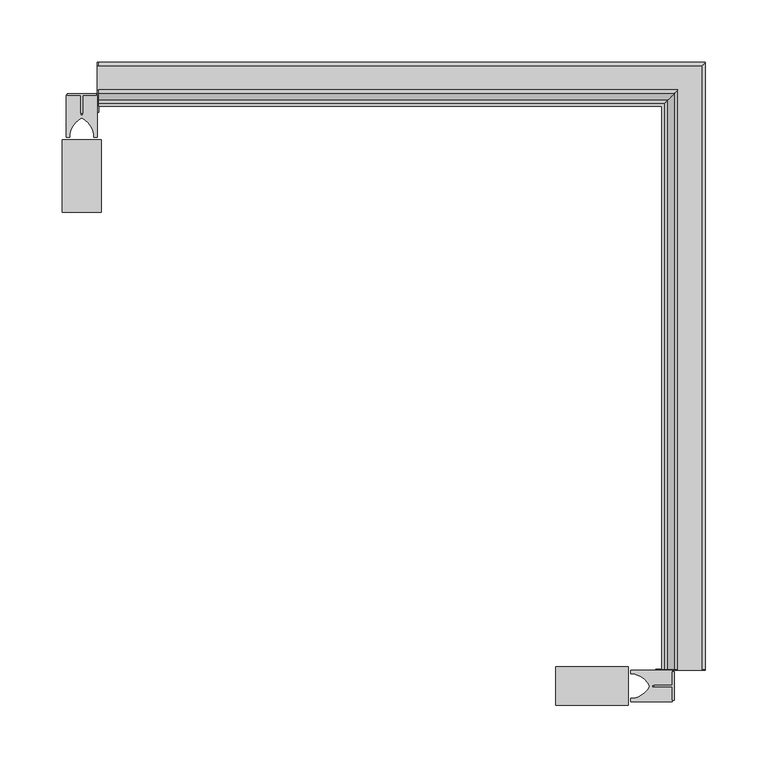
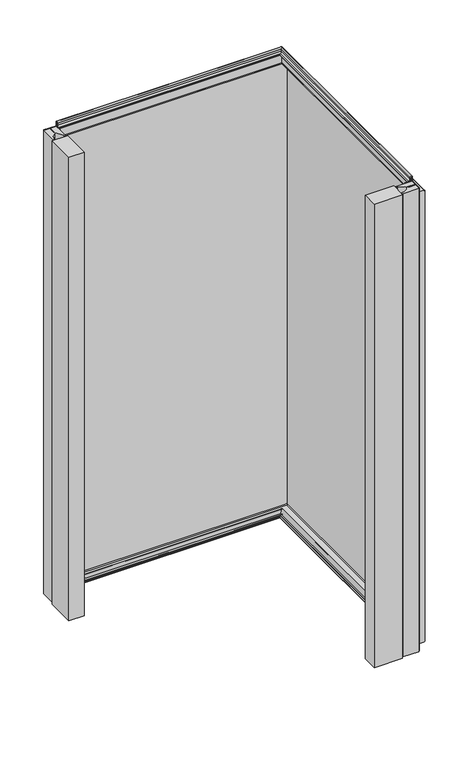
"""IFC4 building model written with IfcOpenShell, lengths in millimetres: plate geometry, Угловой модуль Fronttop : Угловой модуль Fronttop 120/1000."""

from ifc_helpers import new_model, si_unit, point, frame, frame_2d, origin, origin_with_axes, place, context, project, spatial, polyline, circle_curve, ellipse_curve, trimmed, segment, composite_curve, outline, extrude, source, transform, mapped, element, save
from ifc_brep_helpers import plane_surface, cylinder_surface, revolved_surface, advanced_brep


def plate_288d69b8(model_context):
    return source(origin(), model_context, "Body", "SolidModel", [
        extrude(outline(polyline([(225.0, -368.4948846), (225.0, -391.5051154), (223.5, -391.5051154), (223.5, -380.6502496), (209.0759655, -380.6502496), (209.0759655, -379.35), (223.5, -379.35), (223.5, -368.4948846), (225.0, -368.4948846)])), origin_with_axes(), (0.0, 0.0, 1.0), 1000.0),
        extrude(outline(composite_curve([segment(polyline([(223.5, -367.4998455), (223.5, -379.25), (207.5, -379.25), (207.5, -380.75), (223.5, -380.75), (223.5, -392.5001545), (190.0, -392.5001545), (190.0, -389.75), (192.5, -389.75)]), True, "CONTINUOUS"), segment(trimmed(circle_curve(frame_2d((189.3183984, -371.9661979)), 18.0661619), [point((192.5, -389.75))], [point((205.5, -380.0))], True, "CARTESIAN"), True, "CONTINUOUS"), segment(trimmed(circle_curve(frame_2d((189.3183984, -388.0338021)), 18.0661619), [point((205.5, -380.0))], [point((192.5, -370.25))], True, "CARTESIAN"), True, "CONTINUOUS"), segment(polyline([(192.5, -370.25), (190.0, -370.25), (190.0, -367.4998455), (223.5, -367.4998455)]), True, "CONTINUOUS")], self_intersect=False)), origin_with_axes(), (0.0, 0.0, 1.0), 1000.0),
        extrude(outline(polyline([(130.0, -395.5), (130.0, -364.5), (188.0, -364.5), (188.0, -395.5), (130.0, -395.5)])), origin_with_axes(), (0.0, 0.0, 1.0), 1000.0),
        extrude(outline(polyline([(-261.5051154, 95.0), (-238.4948846, 95.0), (-238.4948846, 93.5), (-249.3497504, 93.5), (-249.3497504, 79.0759655), (-250.65, 79.0759655), (-250.65, 93.5), (-261.5051154, 93.5), (-261.5051154, 95.0)])), origin_with_axes(), (0.0, 0.0, 1.0), 1000.0),
        extrude(outline(composite_curve([segment(polyline([(-262.5001545, 93.5), (-250.75, 93.5), (-250.75, 77.5), (-249.25, 77.5), (-249.25, 93.5), (-237.4998455, 93.5), (-237.4998455, 60.0), (-240.25, 60.0), (-240.25, 62.5)]), True, "CONTINUOUS"), segment(trimmed(circle_curve(frame_2d((-258.0338021, 59.3183984)), 18.0661619), [point((-240.25, 62.5))], [point((-250.0, 75.5))], True, "CARTESIAN"), True, "CONTINUOUS"), segment(trimmed(circle_curve(frame_2d((-241.9661979, 59.3183984)), 18.0661619), [point((-250.0, 75.5))], [point((-259.75, 62.5))], True, "CARTESIAN"), True, "CONTINUOUS"), segment(polyline([(-259.75, 62.5), (-259.75, 60.0), (-262.5001545, 60.0), (-262.5001545, 93.5)]), True, "CONTINUOUS")], self_intersect=False)), origin_with_axes(), (0.0, 0.0, 1.0), 1000.0),
        extrude(outline(polyline([(-234.5, 0.0), (-265.5, 0.0), (-265.5, 58.0), (-234.5, 58.0), (-234.5, 0.0)])), origin_with_axes(), (0.0, 0.0, 1.0), 1000.0),
        advanced_brep(
        [(-236.5, 94.0, 1008.0), (-236.5, 91.0, 1008.0), (-236.5, 91.0, 1004.0), (-236.5, 87.0, 1000.0), (-236.5, 85.0, 1000.0), (-236.5, 85.0, 1001.0), (-236.5, 87.0, 1001.0), (-236.5, 90.0, 1004.0), (-236.5, 90.0, 1008.0), (-236.5, 95.0, 1008.0), (-236.5, 95.0, 1000.0), (-236.5, 94.0, 1000.0), (-236.5, 85.0, 2.0), (215.0, 85.0, 2.0), (215.0, 85.0, 3.0), (-236.5, 85.0, 3.0), (215.0, -366.5, 3.0), (217.0, -366.5, 3.0), (217.0, 87.0, 3.0), (-236.5, 87.0, 3.0), (218.0, 88.0, 4.0), (-236.5, 88.0, 4.0), (218.0, 88.0, 8.0), (-236.5, 88.0, 8.0), (227.0, 97.0, 8.0), (-236.5, 97.0, 8.0), (227.0, 97.0, 0.0), (-236.5, 97.0, 0.0), (229.0, 99.0, -2.0), (-236.5, 99.0, -2.0), (229.0, -366.5, -2.0), (247.0, -366.5, -2.0), (247.0, 117.0, -2.0), (-236.5, 117.0, -2.0), (249.0, 119.0, 0.0), (-236.5, 119.0, 0.0), (249.0, 119.0, 969.0), (-236.5, 119.0, 969.0), (247.0, 117.0, 971.0), (-236.5, 117.0, 971.0), (247.0, -366.5, 971.0), (228.0, -366.5, 971.0), (228.0, 98.0, 971.0), (-236.5, 98.0, 971.0), (224.0, 94.0, 975.0), (-236.5, 94.0, 975.0), (224.0, 94.0, 1008.0), (221.0, 91.0, 1008.0), (221.0, 91.0, 1004.0), (217.0, 87.0, 1000.0), (217.0, -366.5, 1000.0), (215.0, -366.5, 1000.0), (215.0, 85.0, 1000.0), (215.0, 85.0, 1001.0), (215.0, -366.5, 1001.0), (217.0, -366.5, 1001.0), (217.0, 87.0, 1001.0), (220.0, 90.0, 1004.0), (220.0, 90.0, 1008.0), (225.0, 95.0, 1008.0), (225.0, 95.0, 975.0), (-236.5, 95.0, 975.0), (-237.5, 95.0, 975.0), (-237.5, 95.0, 1000.0), (228.0, 98.0, 972.0), (-236.5, 98.0, 972.0), (228.0, -366.5, 972.0), (228.0, -367.5, 972.0), (247.0, -367.5, 972.0), (247.0, -366.5, 972.0), (247.0, 117.0, 972.0), (-236.5, 117.0, 972.0), (-237.5, 117.0, 972.0), (-237.5, 98.0, 972.0), (250.0, 120.0, 969.0), (-236.5, 120.0, 969.0), (250.0, 120.0, 0.0), (-236.5, 120.0, 0.0), (-237.5, 120.0, 0.0), (-237.5, 120.0, 969.0), (247.0, 117.0, -3.0), (-236.5, 117.0, -3.0), (247.0, -366.5, -3.0), (247.0, -367.5, -3.0), (225.0, -367.5, -3.0), (225.0, -366.5, -3.0), (229.0, -366.5, -3.0), (229.0, 99.0, -3.0), (-236.5, 99.0, -3.0), (-236.5, 95.0, -3.0), (-237.5, 95.0, -3.0), (-237.5, 117.0, -3.0), (226.0, 96.0, 0.0), (-236.5, 96.0, 0.0), (226.0, 96.0, 8.0), (-236.5, 96.0, 8.0), (219.0, 89.0, 8.0), (-236.5, 89.0, 8.0), (219.0, 89.0, 4.0), (-236.5, 89.0, 4.0), (217.0, 87.0, 2.0), (-236.5, 87.0, 2.0), (217.0, -366.5, 2.0), (215.0, -366.5, 2.0), (221.0, -366.5, 1004.0), (221.0, -366.5, 1008.0), (224.0, -366.5, 1008.0), (224.0, -366.5, 1000.0), (225.0, -366.5, 1000.0), (225.0, -366.5, 1008.0), (220.0, -366.5, 1008.0), (220.0, -366.5, 1004.0), (218.0, -366.5, 4.0), (218.0, -366.5, 8.0), (227.0, -366.5, 8.0), (227.0, -366.5, 0.0), (249.0, -366.5, 0.0), (249.0, -366.5, 969.0), (224.0, -366.5, 975.0), (225.0, -367.5, 1000.0), (225.0, -367.5, 975.0), (225.0, -366.5, 975.0), (250.0, -366.5, 969.0), (250.0, -367.5, 969.0), (250.0, -367.5, 0.0), (250.0, -366.5, 0.0), (226.0, -366.5, 0.0), (226.0, -366.5, 8.0), (219.0, -366.5, 8.0), (219.0, -366.5, 4.0), (-236.5, 80.0, 1000.0), (-236.5, 80.0, 0.0), (-236.5, 95.0, 0.0), (-237.5, 95.0, 0.0), (-237.5, 80.0, 0.0), (-237.5, 80.0, 1000.0), (210.0, -366.5, 0.0), (210.0, -366.5, 1000.0), (225.0, -366.5, 0.0), (210.0, -367.5, 0.0), (225.0, -367.5, 0.0), (210.0, -367.5, 1000.0)],
        [
            (0, 1, circle_curve(frame((-236.5, 92.5, 1008.0), z_axis=(1.0, 0.0, 0.0), x_axis=(0.0, -1.0, 0.0)), 1.5)),
            (1, 2),
            (2, 3, circle_curve(frame((-236.5, 87.0, 1004.0), z_axis=(-1.0, 0.0, 0.0), x_axis=(0.0, -1.0, 0.0)), 4.0)),
            (3, 4),
            (4, 5),
            (5, 6),
            (6, 7, circle_curve(frame((-236.5, 87.0, 1004.0), z_axis=(1.0, 0.0, 0.0), x_axis=(0.0, -1.0, 0.0)), 3.0)),
            (7, 8),
            (8, 9, circle_curve(frame((-236.5, 92.5, 1008.0), z_axis=(-1.0, 0.0, 0.0), x_axis=(0.0, -1.0, 0.0)), 2.5)),
            (9, 10),
            (10, 11),
            (11, 0),
            (12, 13),
            (13, 14),
            (14, 15),
            (15, 12),
            (14, 16),
            (16, 17),
            (17, 18),
            (18, 19),
            (19, 15),
            (18, 20, ellipse_curve(frame((217.0, 87.0, 4.0), z_axis=(0.7071067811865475, -0.7071067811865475, 0.0), x_axis=(0.7071067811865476, 0.7071067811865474, 0.0)), 1.4142136, 1.0)),
            (20, 21),
            (21, 19, circle_curve(frame((-236.5, 87.0, 4.0), z_axis=(-1.0, 0.0, 0.0), x_axis=(0.0, -1.0, 0.0)), 1.0)),
            (20, 22),
            (22, 23),
            (23, 21),
            (22, 24, ellipse_curve(frame((222.5, 92.5, 8.0), z_axis=(-0.7071067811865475, 0.7071067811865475, 0.0), x_axis=(-0.7071067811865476, -0.7071067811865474, 0.0)), 6.363961, 4.5)),
            (24, 25),
            (25, 23, circle_curve(frame((-236.5, 92.5, 8.0), z_axis=(1.0, 0.0, 0.0), x_axis=(0.0, -1.0, 0.0)), 4.5)),
            (24, 26),
            (26, 27),
            (27, 25),
            (26, 28, ellipse_curve(frame((229.0, 99.0, 0.0), z_axis=(0.7071067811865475, -0.7071067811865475, 0.0), x_axis=(0.7071067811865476, 0.7071067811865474, 0.0)), 2.8284271, 2.0)),
            (28, 29),
            (29, 27, circle_curve(frame((-236.5, 99.0, 0.0), z_axis=(-1.0, 0.0, 0.0), x_axis=(0.0, -1.0, 0.0)), 2.0)),
            (28, 30),
            (30, 31),
            (31, 32),
            (32, 33),
            (33, 29),
            (32, 34, ellipse_curve(frame((247.0, 117.0, 0.0), z_axis=(0.7071067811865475, -0.7071067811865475, 0.0), x_axis=(0.7071067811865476, 0.7071067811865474, 0.0)), 2.8284271, 2.0)),
            (34, 35),
            (35, 33, circle_curve(frame((-236.5, 117.0, 0.0), z_axis=(-1.0, 0.0, 0.0), x_axis=(0.0, -1.0, 0.0)), 2.0)),
            (34, 36),
            (36, 37),
            (37, 35),
            (36, 38, ellipse_curve(frame((247.0, 117.0, 969.0), z_axis=(0.7071067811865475, -0.7071067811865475, 0.0), x_axis=(0.7071067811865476, 0.7071067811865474, 0.0)), 2.8284271, 2.0)),
            (38, 39),
            (39, 37, circle_curve(frame((-236.5, 117.0, 969.0), z_axis=(-1.0, 0.0, 0.0), x_axis=(0.0, -1.0, 0.0)), 2.0)),
            (38, 40),
            (40, 41),
            (41, 42),
            (42, 43),
            (43, 39),
            (42, 44, ellipse_curve(frame((228.0, 98.0, 975.0), z_axis=(-0.7071067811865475, 0.7071067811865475, 0.0), x_axis=(-0.7071067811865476, -0.7071067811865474, 0.0)), 5.6568542, 4.0)),
            (44, 45),
            (45, 43, circle_curve(frame((-236.5, 98.0, 975.0), z_axis=(1.0, 0.0, 0.0), x_axis=(0.0, -1.0, 0.0)), 4.0)),
            (44, 46),
            (46, 0),
            (11, 45),
            (46, 47, ellipse_curve(frame((222.5, 92.5, 1008.0), z_axis=(0.7071067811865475, -0.7071067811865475, 0.0), x_axis=(0.7071067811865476, 0.7071067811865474, 0.0)), 2.1213203, 1.5)),
            (47, 1),
            (47, 48),
            (48, 2),
            (48, 49, ellipse_curve(frame((217.0, 87.0, 1004.0), z_axis=(-0.7071067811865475, 0.7071067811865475, 0.0), x_axis=(-0.7071067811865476, -0.7071067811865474, 0.0)), 5.6568542, 4.0)),
            (49, 3),
            (49, 50),
            (50, 51),
            (51, 52),
            (52, 4),
            (4, 3),
            (52, 53),
            (53, 5),
            (53, 54),
            (54, 55),
            (55, 56),
            (56, 6),
            (56, 57, ellipse_curve(frame((217.0, 87.0, 1004.0), z_axis=(0.7071067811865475, -0.7071067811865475, 0.0), x_axis=(0.7071067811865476, 0.7071067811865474, 0.0)), 4.2426407, 3.0)),
            (57, 7),
            (57, 58),
            (58, 8),
            (58, 59, ellipse_curve(frame((222.5, 92.5, 1008.0), z_axis=(-0.7071067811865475, 0.7071067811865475, 0.0), x_axis=(-0.7071067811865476, -0.7071067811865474, 0.0)), 3.5355339, 2.5)),
            (59, 9),
            (59, 60),
            (60, 61),
            (61, 62),
            (62, 63),
            (63, 10),
            (60, 64, ellipse_curve(frame((228.0, 98.0, 975.0), z_axis=(0.7071067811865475, -0.7071067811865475, 0.0), x_axis=(0.7071067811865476, 0.7071067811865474, 0.0)), 4.2426407, 3.0)),
            (64, 65),
            (65, 61, circle_curve(frame((-236.5, 98.0, 975.0), z_axis=(-1.0, 0.0, 0.0), x_axis=(0.0, -1.0, 0.0)), 3.0)),
            (64, 66),
            (66, 67),
            (67, 68),
            (68, 69),
            (69, 70),
            (70, 71),
            (71, 72),
            (72, 73),
            (73, 65),
            (70, 74, ellipse_curve(frame((247.0, 117.0, 969.0), z_axis=(-0.7071067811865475, 0.7071067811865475, 0.0), x_axis=(-0.7071067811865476, -0.7071067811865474, 0.0)), 4.2426407, 3.0)),
            (74, 75),
            (75, 71, circle_curve(frame((-236.5, 117.0, 969.0), z_axis=(1.0, 0.0, 0.0), x_axis=(0.0, -1.0, 0.0)), 3.0)),
            (74, 76),
            (76, 77),
            (77, 78),
            (78, 79),
            (79, 75),
            (76, 80, ellipse_curve(frame((247.0, 117.0, 0.0), z_axis=(-0.7071067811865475, 0.7071067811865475, 0.0), x_axis=(-0.7071067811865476, -0.7071067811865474, 0.0)), 4.2426407, 3.0)),
            (80, 81),
            (81, 77, circle_curve(frame((-236.5, 117.0, 0.0), z_axis=(1.0, 0.0, 0.0), x_axis=(0.0, -1.0, 0.0)), 3.0)),
            (80, 82),
            (82, 83),
            (83, 84),
            (84, 85),
            (85, 86),
            (86, 87),
            (87, 88),
            (88, 89),
            (89, 90),
            (90, 91),
            (91, 81),
            (87, 92, ellipse_curve(frame((229.0, 99.0, 0.0), z_axis=(-0.7071067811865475, 0.7071067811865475, 0.0), x_axis=(-0.7071067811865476, -0.7071067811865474, 0.0)), 4.2426407, 3.0)),
            (92, 93),
            (93, 88, circle_curve(frame((-236.5, 99.0, 0.0), z_axis=(1.0, 0.0, 0.0), x_axis=(0.0, -1.0, 0.0)), 3.0)),
            (92, 94),
            (94, 95),
            (95, 93),
            (94, 96, ellipse_curve(frame((222.5, 92.5, 8.0), z_axis=(0.7071067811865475, -0.7071067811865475, 0.0), x_axis=(0.7071067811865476, 0.7071067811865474, 0.0)), 4.9497475, 3.5)),
            (96, 97),
            (97, 95, circle_curve(frame((-236.5, 92.5, 8.0), z_axis=(-1.0, 0.0, 0.0), x_axis=(0.0, -1.0, 0.0)), 3.5)),
            (96, 98),
            (98, 99),
            (99, 97),
            (98, 100, ellipse_curve(frame((217.0, 87.0, 4.0), z_axis=(-0.7071067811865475, 0.7071067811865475, 0.0), x_axis=(-0.7071067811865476, -0.7071067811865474, 0.0)), 2.8284271, 2.0)),
            (100, 101),
            (101, 99, circle_curve(frame((-236.5, 87.0, 4.0), z_axis=(1.0, 0.0, 0.0), x_axis=(0.0, -1.0, 0.0)), 2.0)),
            (12, 101),
            (100, 102),
            (102, 103),
            (103, 13),
            (54, 51),
            (51, 50),
            (50, 104, circle_curve(frame((217.0, -366.5, 1004.0), z_axis=(0.0, -1.0, 0.0), x_axis=(-1.0, 0.0, 0.0)), 4.0)),
            (104, 105),
            (105, 106, circle_curve(frame((222.5, -366.5, 1008.0), z_axis=(0.0, 1.0, 0.0), x_axis=(-1.0, 0.0, 0.0)), 1.5)),
            (106, 107),
            (107, 108),
            (108, 109),
            (109, 110, circle_curve(frame((222.5, -366.5, 1008.0), z_axis=(0.0, -1.0, 0.0), x_axis=(-1.0, 0.0, 0.0)), 2.5)),
            (110, 111),
            (111, 55, circle_curve(frame((217.0, -366.5, 1004.0), z_axis=(0.0, 1.0, 0.0), x_axis=(-1.0, 0.0, 0.0)), 3.0)),
            (103, 16),
            (17, 112, circle_curve(frame((217.0, -366.5, 4.0), z_axis=(0.0, -1.0, 0.0), x_axis=(-1.0, 0.0, 0.0)), 1.0)),
            (112, 20),
            (112, 113),
            (113, 22),
            (113, 114, circle_curve(frame((222.5, -366.5, 8.0), z_axis=(0.0, 1.0, 0.0), x_axis=(-1.0, 0.0, 0.0)), 4.5)),
            (114, 24),
            (114, 115),
            (115, 26),
            (115, 30, circle_curve(frame((229.0, -366.5, 0.0), z_axis=(0.0, -1.0, 0.0), x_axis=(-1.0, 0.0, 0.0)), 2.0)),
            (31, 116, circle_curve(frame((247.0, -366.5, 0.0), z_axis=(0.0, -1.0, 0.0), x_axis=(-1.0, 0.0, 0.0)), 2.0)),
            (116, 34),
            (116, 117),
            (117, 36),
            (117, 40, circle_curve(frame((247.0, -366.5, 969.0), z_axis=(0.0, -1.0, 0.0), x_axis=(-1.0, 0.0, 0.0)), 2.0)),
            (41, 118, circle_curve(frame((228.0, -366.5, 975.0), z_axis=(0.0, 1.0, 0.0), x_axis=(-1.0, 0.0, 0.0)), 4.0)),
            (118, 44),
            (118, 107),
            (106, 46),
            (105, 47),
            (104, 48),
            (111, 57),
            (110, 58),
            (109, 59),
            (108, 119),
            (119, 120),
            (120, 121),
            (121, 60),
            (121, 66, circle_curve(frame((228.0, -366.5, 975.0), z_axis=(0.0, -1.0, 0.0), x_axis=(-1.0, 0.0, 0.0)), 3.0)),
            (69, 122, circle_curve(frame((247.0, -366.5, 969.0), z_axis=(0.0, 1.0, 0.0), x_axis=(-1.0, 0.0, 0.0)), 3.0)),
            (122, 74),
            (122, 123),
            (123, 124),
            (124, 125),
            (125, 76),
            (125, 82, circle_curve(frame((247.0, -366.5, 0.0), z_axis=(0.0, 1.0, 0.0), x_axis=(-1.0, 0.0, 0.0)), 3.0)),
            (86, 126, circle_curve(frame((229.0, -366.5, 0.0), z_axis=(0.0, 1.0, 0.0), x_axis=(-1.0, 0.0, 0.0)), 3.0)),
            (126, 92),
            (126, 127),
            (127, 94),
            (127, 128, circle_curve(frame((222.5, -366.5, 8.0), z_axis=(0.0, -1.0, 0.0), x_axis=(-1.0, 0.0, 0.0)), 3.5)),
            (128, 96),
            (128, 129),
            (129, 98),
            (129, 102, circle_curve(frame((217.0, -366.5, 4.0), z_axis=(0.0, 1.0, 0.0), x_axis=(-1.0, 0.0, 0.0)), 2.0)),
            (130, 131),
            (131, 132),
            (132, 89),
            (11, 3),
            (4, 130),
            (62, 73, circle_curve(frame((-237.5, 98.0, 975.0), z_axis=(1.0, 0.0, 0.0), x_axis=(0.0, 1.0, 0.0)), 3.0)),
            (72, 79, circle_curve(frame((-237.5, 117.0, 969.0), z_axis=(-1.0, 0.0, 0.0), x_axis=(0.0, 1.0, 0.0)), 3.0)),
            (78, 91, circle_curve(frame((-237.5, 117.0, 0.0), z_axis=(-1.0, 0.0, 0.0), x_axis=(0.0, 1.0, 0.0)), 3.0)),
            (90, 133),
            (133, 134),
            (134, 135),
            (135, 63),
            (135, 130),
            (134, 131),
            (133, 132),
            (136, 137),
            (137, 51),
            (50, 107),
            (85, 138),
            (138, 136),
            (139, 140),
            (140, 84),
            (83, 124, circle_curve(frame((247.0, -367.5, 0.0), z_axis=(0.0, -1.0, 0.0), x_axis=(-1.0, 0.0, 0.0)), 3.0)),
            (123, 68, circle_curve(frame((247.0, -367.5, 969.0), z_axis=(0.0, -1.0, 0.0), x_axis=(-1.0, 0.0, 0.0)), 3.0)),
            (67, 120, circle_curve(frame((228.0, -367.5, 975.0), z_axis=(0.0, 1.0, 0.0), x_axis=(-1.0, 0.0, 0.0)), 3.0)),
            (119, 141),
            (141, 139),
            (138, 140),
            (139, 136),
            (137, 141),
        ],
        [
            plane_surface(frame((-236.5, 0.0, 0.0), z_axis=(-1.0, 0.0, 0.0), x_axis=(0.0, 0.0, 1.0))),
            plane_surface(frame((-236.5, 85.0, 2.0), z_axis=(0.0, -1.0, 0.0), x_axis=(1.0, 0.0, 0.0))),
            plane_surface(frame((-236.5, 85.0, 3.0), z_axis=(0.0, 0.0, 1.0), x_axis=(1.0, 0.0, 0.0))),
            revolved_surface(polyline([(218.00000002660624, 86.0, 4.0), (-236.5, 86.0, 4.0)]), (-236.5, 87.0, 4.0), (1.0, 0.0, 0.0)),
            plane_surface(frame((-236.5, 88.0, 4.0), z_axis=(0.0, -1.0, 0.0), x_axis=(1.0, 0.0, 0.0))),
            cylinder_surface(frame((-236.5, 92.5, 8.0), z_axis=(-1.0, 0.0, 0.0), x_axis=(0.0, -1.0, 0.0)), 4.5),
            plane_surface(frame((-236.5, 97.0, 8.0), z_axis=(0.0, 1.0, 0.0), x_axis=(1.0, 0.0, 0.0))),
            revolved_surface(polyline([(230.99999998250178, 97.0, 0.0), (-236.5, 97.0, 0.0)]), (-236.5, 99.0, 0.0), (1.0, 0.0, 0.0)),
            plane_surface(frame((-236.5, 99.0, -2.0), z_axis=(0.0, 0.0, 1.0), x_axis=(1.0, 0.0, 0.0))),
            revolved_surface(polyline([(249.0, 115.0, 0.0), (-236.5, 115.0, 0.0)]), (-236.5, 117.0, 0.0), (1.0, 0.0, 0.0)),
            plane_surface(frame((-236.5, 119.0, 0.0), z_axis=(0.0, -1.0, 0.0), x_axis=(1.0, 0.0, 0.0))),
            revolved_surface(polyline([(249.0, 115.0, 969.0), (-236.5, 115.0, 969.0)]), (-236.5, 117.0, 969.0), (1.0, 0.0, 0.0)),
            plane_surface(frame((-236.5, 117.0, 971.0), z_axis=(0.0, 0.0, -1.0), x_axis=(1.0, 0.0, 0.0))),
            cylinder_surface(frame((-236.5, 98.0, 975.0), z_axis=(-1.0, 0.0, 0.0), x_axis=(0.0, -1.0, 0.0)), 4.0),
            plane_surface(frame((-236.5, 94.0, 975.0), z_axis=(0.0, -1.0, 0.0), x_axis=(1.0, 0.0, 0.0))),
            revolved_surface(polyline([(224.0, 91.0, 1008.0), (-236.5, 91.0, 1008.0)]), (-236.5, 92.5, 1008.0), (1.0, 0.0, 0.0)),
            plane_surface(frame((-236.5, 91.0, 1008.0), z_axis=(0.0, 1.0, 0.0), x_axis=(1.0, 0.0, 0.0))),
            cylinder_surface(frame((-236.5, 87.0, 1004.0), z_axis=(-1.0, 0.0, 0.0), x_axis=(0.0, -1.0, 0.0)), 4.0),
            plane_surface(frame((-236.5, 87.0, 1000.0), z_axis=(0.0, 0.0, -1.0), x_axis=(1.0, 0.0, 0.0))),
            plane_surface(frame((-236.5, 85.0, 1000.0), z_axis=(0.0, -1.0, 0.0), x_axis=(1.0, 0.0, 0.0))),
            plane_surface(frame((-236.5, 85.0, 1001.0), z_axis=(0.0, 0.0, 1.0), x_axis=(1.0, 0.0, 0.0))),
            revolved_surface(polyline([(220.00000000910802, 84.0, 1004.0), (-236.5, 84.0, 1004.0)]), (-236.5, 87.0, 1004.0), (1.0, 0.0, 0.0)),
            plane_surface(frame((-236.5, 90.0, 1004.0), z_axis=(0.0, -1.0, 0.0), x_axis=(1.0, 0.0, 0.0))),
            cylinder_surface(frame((-236.5, 92.5, 1008.0), z_axis=(-1.0, 0.0, 0.0), x_axis=(0.0, -1.0, 0.0)), 2.5),
            plane_surface(frame((-236.5, 95.0, 1008.0), z_axis=(0.0, 1.0, 0.0), x_axis=(1.0, 0.0, 0.0))),
            revolved_surface(polyline([(231.00000000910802, 95.0, 975.0), (-236.5, 95.0, 975.0)]), (-236.5, 98.0, 975.0), (1.0, 0.0, 0.0)),
            plane_surface(frame((-236.5, 98.0, 972.0), z_axis=(0.0, 0.0, 1.0), x_axis=(1.0, 0.0, 0.0))),
            cylinder_surface(frame((-236.5, 117.0, 969.0), z_axis=(-1.0, 0.0, 0.0), x_axis=(0.0, -1.0, 0.0)), 3.0),
            plane_surface(frame((-236.5, 120.0, 969.0), z_axis=(0.0, 1.0, 0.0), x_axis=(1.0, 0.0, 0.0))),
            cylinder_surface(frame((-236.5, 117.0, 0.0), z_axis=(-1.0, 0.0, 0.0), x_axis=(0.0, -1.0, 0.0)), 3.0),
            plane_surface(frame((-236.5, 117.0, -3.0), z_axis=(0.0, 0.0, -1.0), x_axis=(1.0, 0.0, 0.0))),
            cylinder_surface(frame((-236.5, 99.0, 0.0), z_axis=(-1.0, 0.0, 0.0), x_axis=(0.0, -1.0, 0.0)), 3.0),
            plane_surface(frame((-236.5, 96.0, 0.0), z_axis=(0.0, -1.0, 0.0), x_axis=(1.0, 0.0, 0.0))),
            revolved_surface(polyline([(226.00000002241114, 89.0, 8.0), (-236.5, 89.0, 8.0)]), (-236.5, 92.5, 8.0), (1.0, 0.0, 0.0)),
            plane_surface(frame((-236.5, 89.0, 8.0), z_axis=(0.0, 1.0, 0.0), x_axis=(1.0, 0.0, 0.0))),
            cylinder_surface(frame((-236.5, 87.0, 4.0), z_axis=(-1.0, 0.0, 0.0), x_axis=(0.0, -1.0, 0.0)), 2.0),
            plane_surface(frame((-236.5, 87.0, 2.0), z_axis=(0.0, 0.0, -1.0), x_axis=(1.0, 0.0, 0.0))),
            plane_surface(frame((130.0, -366.5, 0.0), z_axis=(0.0, -1.0, 0.0), x_axis=(0.0, 0.0, 1.0))),
            plane_surface(frame((215.0, 85.0, 2.0), z_axis=(-1.0, 0.0, 0.0), x_axis=(0.0, -1.0, 0.0))),
            revolved_surface(polyline([(216.0, -366.5, 4.0), (216.0, 88.00000002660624, 4.0)]), (217.0, 0.0, 4.0), (0.0, -1.0, 0.0)),
            plane_surface(frame((218.0, 88.0, 4.0), z_axis=(-1.0, 0.0, 0.0), x_axis=(0.0, -1.0, 0.0))),
            cylinder_surface(frame((222.5, 0.0, 8.0), z_axis=(0.0, 1.0, 0.0), x_axis=(-1.0, 0.0, 0.0)), 4.5),
            plane_surface(frame((227.0, 97.0, 8.0), z_axis=(1.0, 0.0, 0.0), x_axis=(0.0, -1.0, 0.0))),
            revolved_surface(polyline([(227.0, -366.5, 0.0), (227.0, 100.9999999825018, 0.0)]), (229.0, 0.0, 0.0), (0.0, -1.0, 0.0)),
            revolved_surface(polyline([(245.0, -366.5, 0.0), (245.0, 119.0, 0.0)]), (247.0, 0.0, 0.0), (0.0, -1.0, 0.0)),
            plane_surface(frame((249.0, 119.0, 0.0), z_axis=(-1.0, 0.0, 0.0), x_axis=(0.0, -1.0, 0.0))),
            revolved_surface(polyline([(245.0, -366.5, 969.0), (245.0, 119.0, 969.0)]), (247.0, 0.0, 969.0), (0.0, -1.0, 0.0)),
            cylinder_surface(frame((228.0, 0.0, 975.0), z_axis=(0.0, 1.0, 0.0), x_axis=(-1.0, 0.0, 0.0)), 4.0),
            plane_surface(frame((224.0, 94.0, 975.0), z_axis=(-1.0, 0.0, 0.0), x_axis=(0.0, -1.0, 0.0))),
            revolved_surface(polyline([(221.0, -366.5, 1008.0), (221.0, 94.0, 1008.0)]), (222.5, 0.0, 1008.0), (0.0, -1.0, 0.0)),
            plane_surface(frame((221.0, 91.0, 1008.0), z_axis=(1.0, 0.0, 0.0), x_axis=(0.0, -1.0, 0.0))),
            cylinder_surface(frame((217.0, 0.0, 1004.0), z_axis=(0.0, 1.0, 0.0), x_axis=(-1.0, 0.0, 0.0)), 4.0),
            plane_surface(frame((215.0, 85.0, 1000.0), z_axis=(-1.0, 0.0, 0.0), x_axis=(0.0, -1.0, 0.0))),
            revolved_surface(polyline([(214.0, -366.5, 1004.0), (214.0, 90.00000000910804, 1004.0)]), (217.0, 0.0, 1004.0), (0.0, -1.0, 0.0)),
            plane_surface(frame((220.0, 90.0, 1004.0), z_axis=(-1.0, 0.0, 0.0), x_axis=(0.0, -1.0, 0.0))),
            cylinder_surface(frame((222.5, 0.0, 1008.0), z_axis=(0.0, 1.0, 0.0), x_axis=(-1.0, 0.0, 0.0)), 2.5),
            plane_surface(frame((225.0, 95.0, 1008.0), z_axis=(1.0, 0.0, 0.0), x_axis=(0.0, -1.0, 0.0))),
            revolved_surface(polyline([(225.0, -366.5, 975.0), (225.0, 101.00000000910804, 975.0)]), (228.0, 0.0, 975.0), (0.0, -1.0, 0.0)),
            cylinder_surface(frame((247.0, 0.0, 969.0), z_axis=(0.0, 1.0, 0.0), x_axis=(-1.0, 0.0, 0.0)), 3.0),
            plane_surface(frame((250.0, 120.0, 969.0), z_axis=(1.0, 0.0, 0.0), x_axis=(0.0, -1.0, 0.0))),
            cylinder_surface(frame((247.0, 0.0, 0.0), z_axis=(0.0, 1.0, 0.0), x_axis=(-1.0, 0.0, 0.0)), 3.0),
            cylinder_surface(frame((229.0, 0.0, 0.0), z_axis=(0.0, 1.0, 0.0), x_axis=(-1.0, 0.0, 0.0)), 3.0),
            plane_surface(frame((226.0, 96.0, 0.0), z_axis=(-1.0, 0.0, 0.0), x_axis=(0.0, -1.0, 0.0))),
            revolved_surface(polyline([(219.0, -366.5, 8.0), (219.0, 96.00000002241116, 8.0)]), (222.5, 0.0, 8.0), (0.0, -1.0, 0.0)),
            plane_surface(frame((219.0, 89.0, 8.0), z_axis=(1.0, 0.0, 0.0), x_axis=(0.0, -1.0, 0.0))),
            cylinder_surface(frame((217.0, 0.0, 4.0), z_axis=(0.0, 1.0, 0.0), x_axis=(-1.0, 0.0, 0.0)), 2.0),
            plane_surface(frame((-236.5, 95.0, 1000.0), z_axis=(1.0, 0.0, 0.0), x_axis=(0.0, -1.0, 0.0))),
            plane_surface(frame((-237.5, 95.0, 1000.0), z_axis=(-1.0, 0.0, 0.0), x_axis=(0.0, 1.0, 0.0))),
            plane_surface(frame((-236.5, 95.0, 1000.0), z_axis=(0.0, 0.0, 1.0), x_axis=(-1.0, 0.0, 0.0))),
            plane_surface(frame((-236.5, 80.0, 1000.0), z_axis=(0.0, -1.0, 0.0), x_axis=(-1.0, 0.0, 0.0))),
            plane_surface(frame((-236.5, 80.0, 0.0), z_axis=(0.0, 0.0, -1.0), x_axis=(-1.0, 0.0, 0.0))),
            plane_surface(frame((-236.5, 95.0, 0.0), z_axis=(0.0, -1.0, 0.0), x_axis=(-1.0, 0.0, 0.0))),
            cylinder_surface(frame((-237.5, 117.0, 0.0), z_axis=(1.0, 0.0, 0.0), x_axis=(0.0, 1.0, 0.0)), 3.0),
            cylinder_surface(frame((-237.5, 117.0, 969.0), z_axis=(1.0, 0.0, 0.0), x_axis=(0.0, 1.0, 0.0)), 3.0),
            revolved_surface(polyline([(-237.5, 101.0, 975.0), (-236.5, 101.0, 975.0)]), (-237.5, 98.0, 975.0), (-1.0, 0.0, 0.0)),
            plane_surface(frame((210.0, -366.5, 1000.0), z_axis=(0.0, 1.0, 0.0), x_axis=(0.0, 0.0, 1.0))),
            plane_surface(frame((210.0, -367.5, 1000.0), z_axis=(0.0, -1.0, 0.0), x_axis=(0.0, 0.0, -1.0))),
            plane_surface(frame((225.0, -366.5, 0.0), z_axis=(0.0, 0.0, -1.0), x_axis=(0.0, -1.0, 0.0))),
            plane_surface(frame((225.0, -366.5, -3.0), z_axis=(-1.0, 0.0, 0.0), x_axis=(0.0, -1.0, 0.0))),
            cylinder_surface(frame((247.0, -367.5, 0.0), z_axis=(0.0, 1.0, 0.0), x_axis=(-1.0, 0.0, 0.0)), 3.0),
            cylinder_surface(frame((247.0, -367.5, 969.0), z_axis=(0.0, 1.0, 0.0), x_axis=(-1.0, 0.0, 0.0)), 3.0),
            revolved_surface(polyline([(225.0, -367.5, 975.0), (225.0, -366.5, 975.0)]), (228.0, -367.5, 975.0), (0.0, -1.0, 0.0)),
            plane_surface(frame((210.0, -366.5, 1000.0), z_axis=(0.0, 0.0, 1.0), x_axis=(0.0, -1.0, 0.0))),
            plane_surface(frame((210.0, -366.5, 0.0), z_axis=(-1.0, 0.0, 0.0), x_axis=(0.0, -1.0, 0.0))),
        ],
        [
            (0, [[1, 2, 3, 4, 5, 6, 7, 8, 9, 10, 11, 12]]),
            (1, [[13, 14, 15, 16]]),
            (2, [[-15, 17, 18, 19, 20, 21]]),
            (3, [[-20, 22, 23, 24]]),
            (4, [[-23, 25, 26, 27]]),
            (5, [[-26, 28, 29, 30]]),
            (6, [[-29, 31, 32, 33]]),
            (7, [[-32, 34, 35, 36]]),
            (8, [[-35, 37, 38, 39, 40, 41]]),
            (9, [[-40, 42, 43, 44]]),
            (10, [[-43, 45, 46, 47]]),
            (11, [[-46, 48, 49, 50]]),
            (12, [[-49, 51, 52, 53, 54, 55]]),
            (13, [[-54, 56, 57, 58]]),
            (14, [[-57, 59, 60, -12, 61]]),
            (15, [[-1, -60, 62, 63]]),
            (16, [[-2, -63, 64, 65]]),
            (17, [[-3, -65, 66, 67]]),
            (18, [[-67, 68, 69, 70, 71, 72]]),
            (19, [[-5, -71, 73, 74]]),
            (20, [[-6, -74, 75, 76, 77, 78]]),
            (21, [[-7, -78, 79, 80]]),
            (22, [[-8, -80, 81, 82]]),
            (23, [[-9, -82, 83, 84]]),
            (24, [[-84, 85, 86, 87, 88, 89, -10]]),
            (25, [[-86, 90, 91, 92]]),
            (26, [[-91, 93, 94, 95, 96, 97, 98, 99, 100, 101]]),
            (27, [[-98, 102, 103, 104]]),
            (28, [[-103, 105, 106, 107, 108, 109]]),
            (29, [[-106, 110, 111, 112]]),
            (30, [[-111, 113, 114, 115, 116, 117, 118, 119, 120, 121, 122, 123]]),
            (31, [[-119, 124, 125, 126]]),
            (32, [[-125, 127, 128, 129]]),
            (33, [[-128, 130, 131, 132]]),
            (34, [[-131, 133, 134, 135]]),
            (35, [[-134, 136, 137, 138]]),
            (36, [[-13, 139, -137, 140, 141, 142]]),
            (37, [[-76, 143, 144, 145, 146, 147, 148, 149, 150, 151, 152, 153]]),
            (38, [[-14, -142, 154, -17]]),
            (39, [[-19, 155, 156, -22]]),
            (40, [[-25, -156, 157, 158]]),
            (41, [[-28, -158, 159, 160]]),
            (42, [[-31, -160, 161, 162]]),
            (43, [[-34, -162, 163, -37]]),
            (44, [[-39, 164, 165, -42]]),
            (45, [[-45, -165, 166, 167]]),
            (46, [[-48, -167, 168, -51]]),
            (47, [[-53, 169, 170, -56]]),
            (48, [[-59, -170, 171, -148, 172]]),
            (49, [[-62, -172, -147, 173]]),
            (50, [[-64, -173, -146, 174]]),
            (51, [[-66, -174, -145, -68]]),
            (52, [[-70, -143, -75, -73]]),
            (53, [[-77, -153, 175, -79]]),
            (54, [[-81, -175, -152, 176]]),
            (55, [[-83, -176, -151, 177]]),
            (56, [[-85, -177, -150, 178, 179, 180, 181]]),
            (57, [[-90, -181, 182, -93]]),
            (58, [[-97, 183, 184, -102]]),
            (59, [[-105, -184, 185, 186, 187, 188]]),
            (60, [[-110, -188, 189, -113]]),
            (61, [[-118, 190, 191, -124]]),
            (62, [[-127, -191, 192, 193]]),
            (63, [[-130, -193, 194, 195]]),
            (64, [[-133, -195, 196, 197]]),
            (65, [[-136, -197, 198, -140]]),
            (66, [[199, 200, 201, -120, -126, -129, -132, -135, -138, -139, -16, -21, -24, -27, -30, -33, -36, -41, -44, -47, -50, -55, -58, -61, 202, -72, 203]]),
            (67, [[-88, 204, -100, 205, -108, 206, -122, 207, 208, 209, 210]]),
            (68, [[-210, 211, -203, -4, -202, -11, -89]]),
            (69, [[-199, -211, -209, 212]]),
            (70, [[-200, -212, -208, 213]]),
            (71, [[-201, -213, -207, -121]]),
            (72, [[-206, -107, -112, -123]]),
            (73, [[-205, -99, -104, -109]]),
            (74, [[-204, -87, -92, -101]]),
            (75, [[214, 215, -69, 216, -171, -169, -52, -168, -166, -164, -38, -163, -161, -159, -157, -155, -18, -154, -141, -198, -196, -194, -192, -190, -117, 217, 218]]),
            (76, [[219, 220, -115, 221, -186, 222, -95, 223, -179, 224, 225]]),
            (77, [[-218, 226, -219, 227]]),
            (78, [[-217, -116, -220, -226]]),
            (79, [[-221, -114, -189, -187]]),
            (80, [[-222, -185, -183, -96]]),
            (81, [[-223, -94, -182, -180]]),
            (82, [[-224, -178, -149, -216, -144, -215, 228]]),
            (83, [[-214, -227, -225, -228]]),
        ],
    ),
    ])


if __name__ == "__main__":
    model = new_model("IFC4")
    model_context = context("Model", 3, world=origin())
    ifc_project = project(units=[si_unit("LENGTHUNIT", "METRE", prefix="MILLI")], contexts=[model_context])
    site = spatial("IfcSite", under=ifc_project)
    building = spatial("IfcBuilding", under=site)
    placement = place(None, origin())
    plate_shape = plate_288d69b8(model_context)
    element("IfcPlate", 1, ObjectType="Угловой модуль Fronttop : Угловой модуль Fronttop 120/1000", at=placement, inside=building, context=model_context, shape_type="MappedRepresentation", body=[
        mapped(plate_shape, transform((0.0, 0.0, 0.0), x_axis=(1.0, 0.0, 0.0), y_axis=(0.0, 1.0, 0.0), z_axis=(0.0, 0.0, 1.0))),
    ])
    save(model, "model.ifc")
